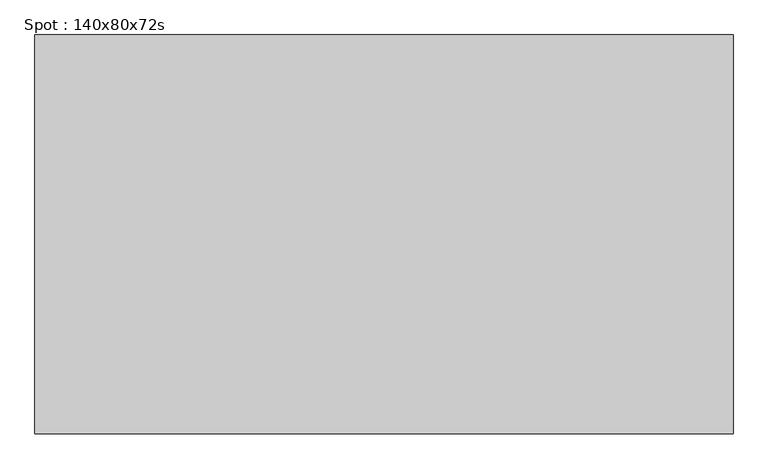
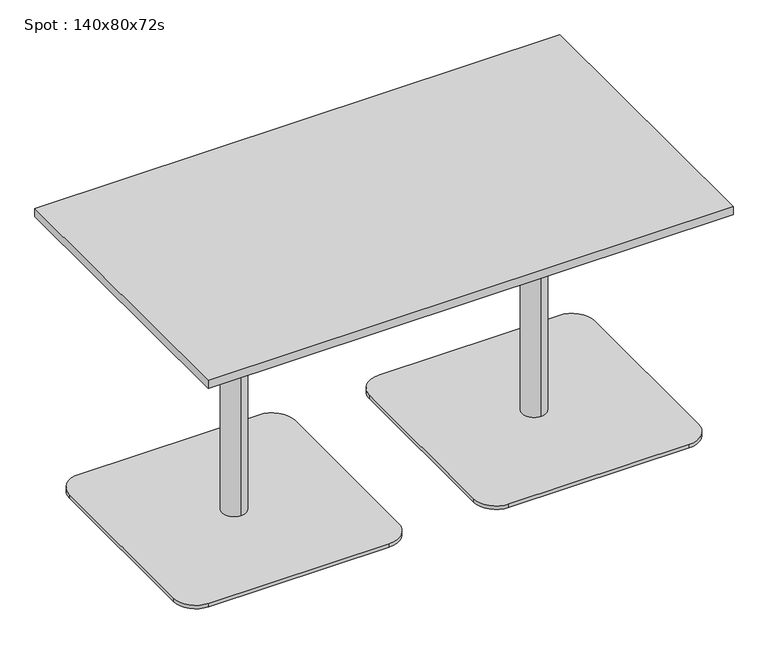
"""IFC4 building model written with IfcOpenShell, lengths in millimetres: furniture geometry, Spot : 140x80x72s."""

from ifc_helpers import new_model, si_unit, point, frame, frame_2d, origin, origin_with_axes, place, context, project, spatial, polyline, circle_curve, trimmed, segment, composite_curve, outline, extrude, source, transform, mapped, element, save
from ifc_brep_helpers import plane_surface, cylinder_surface, revolved_surface, advanced_brep


def spot_140x80x72s_08d3aa09(model_context):
    return source(origin(), model_context, "Body", "SolidModel", [
        extrude(outline(polyline([(700.0, 400.0), (700.0, -400.0), (-700.0, -400.0), (-700.0, 400.0), (700.0, 400.0)])), frame((0.0, 0.0, 698.0), z_axis=(0.0, 0.0, 1.0), x_axis=(1.0, 0.0, 0.0)), (0.0, 0.0, 1.0), 22.0),
        extrude(outline(composite_curve([segment(trimmed(circle_curve(frame_2d((-160.0, 240.0)), 60.0), [point((-160.0, 300.0))], [point((-100.0, 240.0))], False, "CARTESIAN"), True, "CONTINUOUS"), segment(polyline([(-100.0, 240.0), (-100.0, -240.0)]), True, "CONTINUOUS"), segment(trimmed(circle_curve(frame_2d((-160.0, -240.0)), 60.0), [point((-100.0, -240.0))], [point((-160.0, -300.0))], False, "CARTESIAN"), True, "CONTINUOUS"), segment(polyline([(-160.0, -300.0), (-640.0, -300.0)]), True, "CONTINUOUS"), segment(trimmed(circle_curve(frame_2d((-640.0, -240.0)), 60.0), [point((-640.0, -300.0))], [point((-700.0, -240.0))], False, "CARTESIAN"), True, "CONTINUOUS"), segment(polyline([(-700.0, -240.0), (-700.0, 240.0)]), True, "CONTINUOUS"), segment(trimmed(circle_curve(frame_2d((-640.0, 240.0)), 60.0), [point((-700.0, 240.0))], [point((-640.0, 300.0))], False, "CARTESIAN"), True, "CONTINUOUS"), segment(polyline([(-640.0, 300.0), (-160.0, 300.0)]), True, "CONTINUOUS")], self_intersect=False)), origin_with_axes(), (0.0, 0.0, 1.0), 10.0),
        advanced_brep(
        [(-400.0, 32.0, 10.0), (-400.0, -32.0, 10.0), (-400.0, -32.0, 667.406916), (-400.0, 32.0, 667.406916), (-400.0, 0.0, 10.0), (-400.0, 150.0, 698.0), (-400.0, -150.0, 698.0), (-400.0, 0.0, 698.0), (-400.0, 150.0, 686.7213673), (-400.0, -150.0, 686.7213673)],
        [
            (0, 1, circle_curve(frame((-400.0, 0.0, 10.0), z_axis=(0.0, 0.0, 1.0), x_axis=(0.0, -1.0, 0.0)), 32.0)),
            (1, 2),
            (2, 3, circle_curve(frame((-400.0, 0.0, 667.406916), z_axis=(0.0, 0.0, -1.0), x_axis=(0.0, -1.0, 0.0)), 32.0)),
            (3, 0),
            (1, 0, circle_curve(frame((-400.0, 0.0, 10.0), z_axis=(0.0, 0.0, 1.0), x_axis=(0.0, -1.0, 0.0)), 32.0)),
            (3, 2, circle_curve(frame((-400.0, 0.0, 667.406916), z_axis=(0.0, 0.0, -1.0), x_axis=(0.0, -1.0, 0.0)), 32.0)),
            (4, 1),
            (0, 4),
            (5, 6, circle_curve(frame((-400.0, 0.0, 698.0), z_axis=(0.0, 0.0, 1.0), x_axis=(0.0, -1.0, 0.0)), 150.0)),
            (6, 7),
            (7, 5),
            (6, 5, circle_curve(frame((-400.0, 0.0, 698.0), z_axis=(0.0, 0.0, 1.0), x_axis=(0.0, -1.0, 0.0)), 150.0)),
            (8, 9, circle_curve(frame((-400.0, 0.0, 686.7213673), z_axis=(0.0, 0.0, 1.0), x_axis=(0.0, -1.0, 0.0)), 150.0)),
            (9, 6),
            (5, 8),
            (9, 8, circle_curve(frame((-400.0, 0.0, 686.7213673), z_axis=(0.0, 0.0, 1.0), x_axis=(0.0, -1.0, 0.0)), 150.0)),
            (2, 9),
            (8, 3),
        ],
        [
            cylinder_surface(frame((-400.0, 0.0, 1060.0), z_axis=(0.0, 0.0, -1.0), x_axis=(0.0, -1.0, 0.0)), 32.0),
            plane_surface(frame((-400.0, 0.0, 10.0), z_axis=(0.0, 0.0, -1.0), x_axis=(0.0, -1.0, 0.0))),
            plane_surface(frame((-400.0, 0.0, 698.0), z_axis=(0.0, 0.0, 1.0), x_axis=(0.0, -1.0, 0.0))),
            cylinder_surface(frame((-400.0, 0.0, 1060.0), z_axis=(0.0, 0.0, -1.0), x_axis=(0.0, -1.0, 0.0)), 150.0),
            revolved_surface(polyline([(-400.0, -150.0, 686.7213673), (-400.0, -32.0, 667.406916)]), (-400.0, 0.0, 1060.0), (0.0, 0.0, -1.0)),
        ],
        [
            (0, [[1, 2, 3, 4]]),
            (0, [[5, -4, 6, -2]]),
            (1, [[7, -1, 8]]),
            (1, [[-8, -5, -7]]),
            (2, [[9, 10, 11]]),
            (2, [[12, -11, -10]]),
            (3, [[13, 14, -9, 15]]),
            (3, [[16, -15, -12, -14]]),
            (4, [[-3, 17, -13, 18]]),
            (4, [[-6, -18, -16, -17]]),
        ],
    ),
        extrude(outline(polyline([(-400.0, 0.0), (-420.0, 0.0), (-420.0, 20.0), (-400.0, 20.0), (-400.0, 0.0)])), origin_with_axes(), (0.0, 0.0, 1.0), 10.0),
        extrude(outline(composite_curve([segment(trimmed(circle_curve(frame_2d((640.0, 240.0)), 60.0), [point((640.0, 300.0))], [point((700.0, 240.0))], False, "CARTESIAN"), True, "CONTINUOUS"), segment(polyline([(700.0, 240.0), (700.0, -240.0)]), True, "CONTINUOUS"), segment(trimmed(circle_curve(frame_2d((640.0, -240.0)), 60.0), [point((700.0, -240.0))], [point((640.0, -300.0))], False, "CARTESIAN"), True, "CONTINUOUS"), segment(polyline([(640.0, -300.0), (160.0, -300.0)]), True, "CONTINUOUS"), segment(trimmed(circle_curve(frame_2d((160.0, -240.0)), 60.0), [point((160.0, -300.0))], [point((100.0, -240.0))], False, "CARTESIAN"), True, "CONTINUOUS"), segment(polyline([(100.0, -240.0), (100.0, 240.0)]), True, "CONTINUOUS"), segment(trimmed(circle_curve(frame_2d((160.0, 240.0)), 60.0), [point((100.0, 240.0))], [point((160.0, 300.0))], False, "CARTESIAN"), True, "CONTINUOUS"), segment(polyline([(160.0, 300.0), (640.0, 300.0)]), True, "CONTINUOUS")], self_intersect=False)), origin_with_axes(), (0.0, 0.0, 1.0), 10.0),
        advanced_brep(
        [(400.0, 32.0, 10.0), (400.0, -32.0, 10.0), (400.0, -32.0, 667.406916), (400.0, 32.0, 667.406916), (400.0, 0.0, 10.0), (400.0, 150.0, 698.0), (400.0, -150.0, 698.0), (400.0, 0.0, 698.0), (400.0, 150.0, 686.7213673), (400.0, -150.0, 686.7213673)],
        [
            (0, 1, circle_curve(frame((400.0, 0.0, 10.0), z_axis=(0.0, 0.0, 1.0), x_axis=(0.0, -1.0, 0.0)), 32.0)),
            (1, 2),
            (2, 3, circle_curve(frame((400.0, 0.0, 667.406916), z_axis=(0.0, 0.0, -1.0), x_axis=(0.0, -1.0, 0.0)), 32.0)),
            (3, 0),
            (1, 0, circle_curve(frame((400.0, 0.0, 10.0), z_axis=(0.0, 0.0, 1.0), x_axis=(0.0, -1.0, 0.0)), 32.0)),
            (3, 2, circle_curve(frame((400.0, 0.0, 667.406916), z_axis=(0.0, 0.0, -1.0), x_axis=(0.0, -1.0, 0.0)), 32.0)),
            (4, 1),
            (0, 4),
            (5, 6, circle_curve(frame((400.0, 0.0, 698.0), z_axis=(0.0, 0.0, 1.0), x_axis=(0.0, -1.0, 0.0)), 150.0)),
            (6, 7),
            (7, 5),
            (6, 5, circle_curve(frame((400.0, 0.0, 698.0), z_axis=(0.0, 0.0, 1.0), x_axis=(0.0, -1.0, 0.0)), 150.0)),
            (8, 9, circle_curve(frame((400.0, 0.0, 686.7213673), z_axis=(0.0, 0.0, 1.0), x_axis=(0.0, -1.0, 0.0)), 150.0)),
            (9, 6),
            (5, 8),
            (9, 8, circle_curve(frame((400.0, 0.0, 686.7213673), z_axis=(0.0, 0.0, 1.0), x_axis=(0.0, -1.0, 0.0)), 150.0)),
            (2, 9),
            (8, 3),
        ],
        [
            cylinder_surface(frame((400.0, 0.0, 1060.0), z_axis=(0.0, 0.0, -1.0), x_axis=(0.0, -1.0, 0.0)), 32.0),
            plane_surface(frame((400.0, 0.0, 10.0), z_axis=(0.0, 0.0, -1.0), x_axis=(0.0, -1.0, 0.0))),
            plane_surface(frame((400.0, 0.0, 698.0), z_axis=(0.0, 0.0, 1.0), x_axis=(0.0, -1.0, 0.0))),
            cylinder_surface(frame((400.0, 0.0, 1060.0), z_axis=(0.0, 0.0, -1.0), x_axis=(0.0, -1.0, 0.0)), 150.0),
            revolved_surface(polyline([(400.0, -150.0, 686.7213673), (400.0, -32.0, 667.406916)]), (400.0, 0.0, 1060.0), (0.0, 0.0, -1.0)),
        ],
        [
            (0, [[1, 2, 3, 4]]),
            (0, [[5, -4, 6, -2]]),
            (1, [[7, -1, 8]]),
            (1, [[-8, -5, -7]]),
            (2, [[9, 10, 11]]),
            (2, [[12, -11, -10]]),
            (3, [[13, 14, -9, 15]]),
            (3, [[16, -15, -12, -14]]),
            (4, [[-3, 17, -13, 18]]),
            (4, [[-6, -18, -16, -17]]),
        ],
    ),
        extrude(outline(polyline([(400.0, 0.0), (380.0, 0.0), (380.0, 20.0), (400.0, 20.0), (400.0, 0.0)])), origin_with_axes(), (0.0, 0.0, 1.0), 10.0),
    ])


if __name__ == "__main__":
    model = new_model("IFC4")
    model_context = context("Model", 3, world=origin())
    ifc_project = project(units=[si_unit("LENGTHUNIT", "METRE", prefix="MILLI")], contexts=[model_context])
    site = spatial("IfcSite", under=ifc_project)
    building = spatial("IfcBuilding", under=site)
    placement = place(None, origin())
    spot_140x80x72s_shape = spot_140x80x72s_08d3aa09(model_context)
    element("IfcFurniture", 1, ObjectType="Spot : 140x80x72s", at=placement, inside=building, context=model_context, shape_type="MappedRepresentation", body=[
        mapped(spot_140x80x72s_shape, transform((0.0, 0.0, 0.0), x_axis=(1.0, 0.0, 0.0), y_axis=(0.0, 1.0, 0.0), z_axis=(0.0, 0.0, 1.0))),
    ])
    save(model, "model.ifc")
